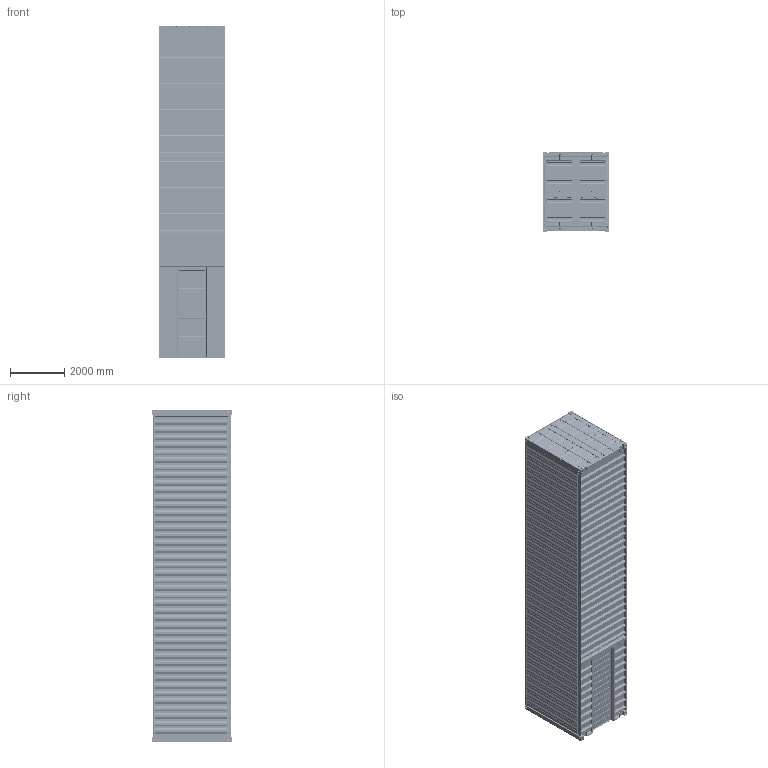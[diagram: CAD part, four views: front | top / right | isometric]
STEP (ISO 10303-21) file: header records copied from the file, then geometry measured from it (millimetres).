
FILE_DESCRIPTION (( 'STEP AP203' ), '1' );
FILE_NAME ('40 ft.STEP', '2026-01-16T10:39:43', ( '' ), ( '' ), 'SwSTEP 2.0', 'SolidWorks 2024', '' );
FILE_SCHEMA (( 'CONFIG_CONTROL_DESIGN' ));
Length unit declared in the file: millimetre
Products named in the file (1): 40 ft
Bounding box: 2438 x 2921.4 x 12192 mm (x, y, z)
Volume: 1037187610.5 mm3; surface area: 367629488.7 mm2
Topology: 274 solids, 274 shells, 16673 faces, 37090 edges, 19789 vertices
Faces by surface type: plane 7055, cylinder 4622, bspline 1810, sphere 1144, cone 1046, torus 996
Entity records: 540927 total; most frequent: CARTESIAN_POINT 191213, DIRECTION 74651, ORIENTED_EDGE 71428, EDGE_CURVE 35714, AXIS2_PLACEMENT_3D 28114, VERTEX_POINT 19781, VECTOR 18423, LINE 18423
